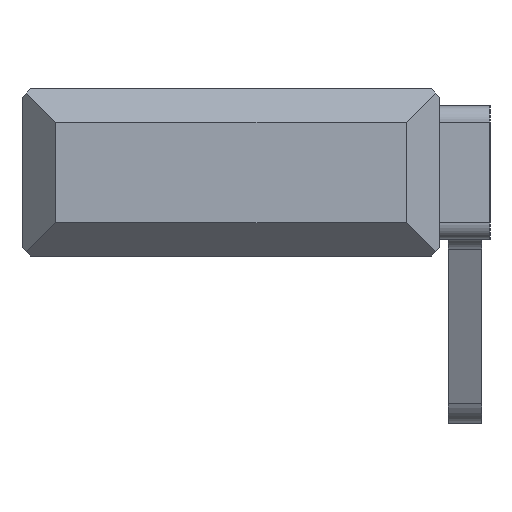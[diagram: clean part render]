
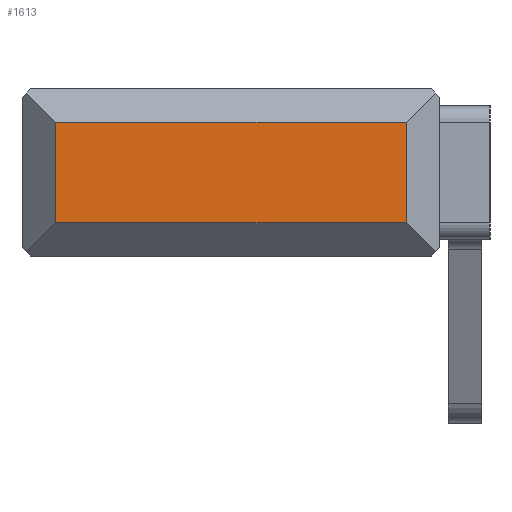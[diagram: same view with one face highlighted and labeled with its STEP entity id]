
A CAD part, left-side view. The second image highlights one B-rep face of the part: STEP entity #1613.
In plain terms, the highlighted planar face has unit normal (-1, 0, 0).
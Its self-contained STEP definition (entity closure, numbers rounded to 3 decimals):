
#465=DIRECTION('',(0.,0.,-1.));
#466=VECTOR('',#465,6.);
#467=CARTESIAN_POINT('',(0.,2.,-2.));
#468=LINE('',#467,#466);
#477=DIRECTION('',(0.,1.,0.));
#478=VECTOR('',#477,21.);
#479=CARTESIAN_POINT('',(0.,2.,-8.));
#480=LINE('',#479,#478);
#497=DIRECTION('',(0.,0.,1.));
#498=VECTOR('',#497,6.);
#499=CARTESIAN_POINT('',(0.,23.,-8.));
#500=LINE('',#499,#498);
#565=DIRECTION('',(0.,1.,0.));
#566=VECTOR('',#565,21.);
#567=CARTESIAN_POINT('',(0.,2.,-2.));
#568=LINE('',#567,#566);
#625=CARTESIAN_POINT('',(0.,2.,-2.));
#626=CARTESIAN_POINT('',(0.,23.,-2.));
#627=VERTEX_POINT('',#625);
#628=VERTEX_POINT('',#626);
#633=CARTESIAN_POINT('',(0.,2.,-8.));
#634=VERTEX_POINT('',#633);
#635=CARTESIAN_POINT('',(0.,23.,-8.));
#636=VERTEX_POINT('',#635);
#1602=CARTESIAN_POINT('',(0.,0.,0.));
#1603=DIRECTION('',(-1.,0.,0.));
#1604=DIRECTION('',(0.,1.,0.));
#1605=AXIS2_PLACEMENT_3D('',#1602,#1603,#1604);
#1606=PLANE('',#1605);
#1607=ORIENTED_EDGE('',*,*,#1524,.T.);
#1608=ORIENTED_EDGE('',*,*,#1467,.F.);
#1609=ORIENTED_EDGE('',*,*,#1485,.T.);
#1610=ORIENTED_EDGE('',*,*,#1501,.T.);
#1611=EDGE_LOOP('',(#1607,#1608,#1609,#1610));
#1612=FACE_OUTER_BOUND('',#1611,.F.);
#1613=ADVANCED_FACE('',(#1612),#1606,.T.);
#1467=EDGE_CURVE('',#627,#628,#568,.T.);
#1485=EDGE_CURVE('',#627,#634,#468,.T.);
#1501=EDGE_CURVE('',#634,#636,#480,.T.);
#1524=EDGE_CURVE('',#636,#628,#500,.T.);
